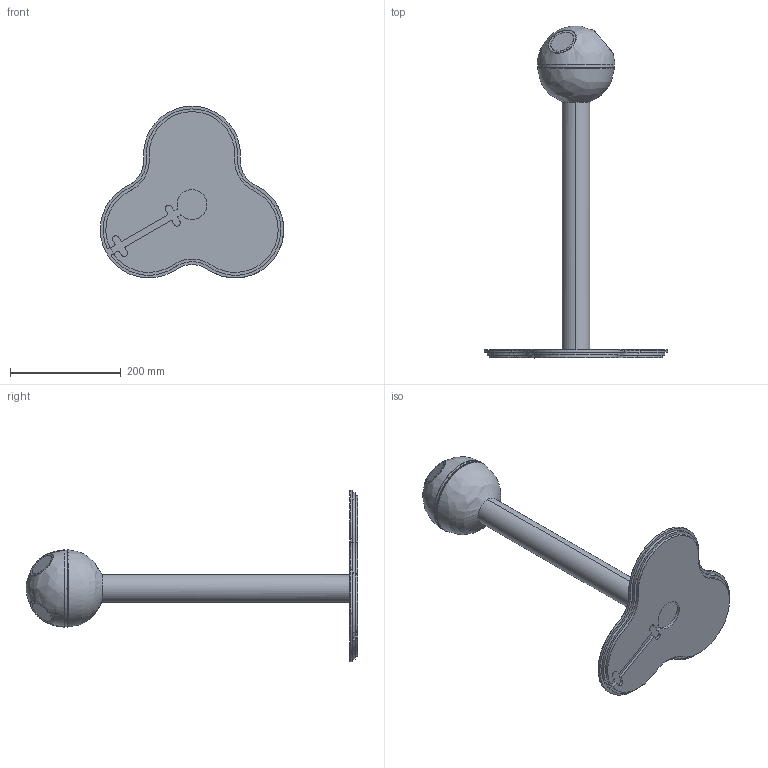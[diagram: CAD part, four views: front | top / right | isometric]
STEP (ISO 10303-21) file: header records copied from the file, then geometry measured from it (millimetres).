
FILE_DESCRIPTION (( 'STEP AP203' ), '1' );
FILE_NAME ('Pelican_2_Block.STEP', '2023-01-12T14:07:51', ( '' ), ( '' ), 'SwSTEP 2.0', 'SolidWorks 2021', '' );
FILE_SCHEMA (( 'CONFIG_CONTROL_DESIGN' ));
Length unit declared in the file: millimetre
Products named in the file (1): Pelican_2_Block
Bounding box: 330.88 x 598.7 x 309.81 mm (x, y, z)
Volume: 3272686 mm3; surface area: 292041 mm2
Topology: 1 solids, 1 shells, 550 faces, 1418 edges, 928 vertices
Faces by surface type: plane 286, cylinder 115, bspline 105, torus 26, cone 16, sphere 2
Entity records: 20174 total; most frequent: CARTESIAN_POINT 7140, ORIENTED_EDGE 2832, DIRECTION 2426, EDGE_CURVE 1416, VERTEX_POINT 928, LINE 878, VECTOR 878, AXIS2_PLACEMENT_3D 774
